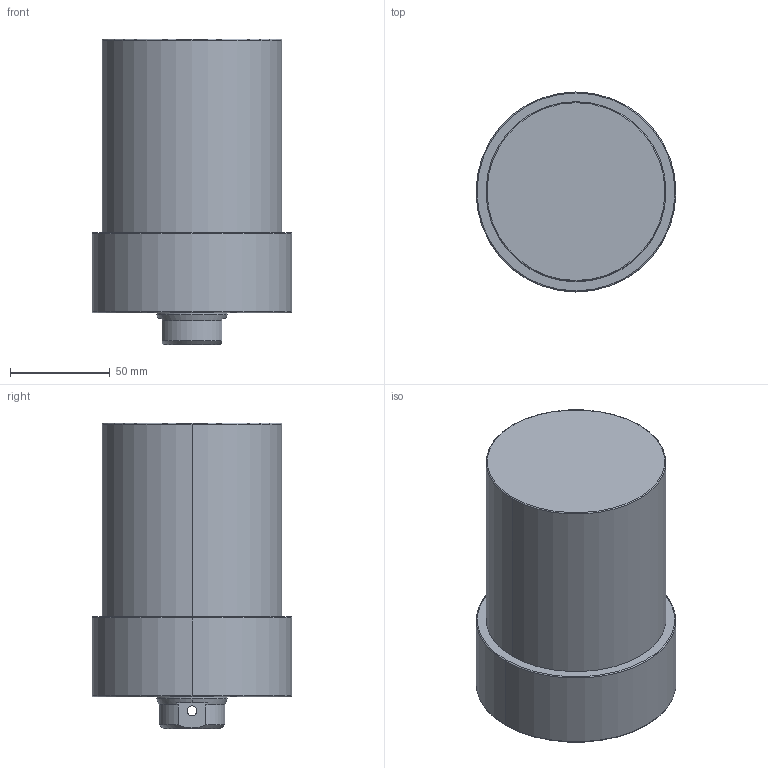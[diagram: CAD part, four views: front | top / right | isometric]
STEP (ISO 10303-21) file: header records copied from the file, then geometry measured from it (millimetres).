
FILE_DESCRIPTION (( 'STEP AP203' ), '1' );
FILE_NAME ('CLLU-090GB-075.STEP', '2020-01-11T01:03:01', ( '' ), ( '' ), 'SwSTEP 2.0', 'SolidWorks 2015', '' );
FILE_SCHEMA (( 'CONFIG_CONTROL_DESIGN' ));
Length unit declared in the file: millimetre
Products named in the file (1): CLLU-090GB-075
Bounding box: 100 x 100 x 153 mm (x, y, z)
Volume: 926547.2 mm3; surface area: 62398.7 mm2
Topology: 1 solids, 1 shells, 66 faces, 154 edges, 87 vertices
Faces by surface type: cylinder 26, cone 24, plane 10, torus 6
Entity records: 2029 total; most frequent: CARTESIAN_POINT 458, DIRECTION 342, ORIENTED_EDGE 288, EDGE_CURVE 144, AXIS2_PLACEMENT_3D 143, VERTEX_POINT 87, EDGE_LOOP 77, CIRCLE 76
